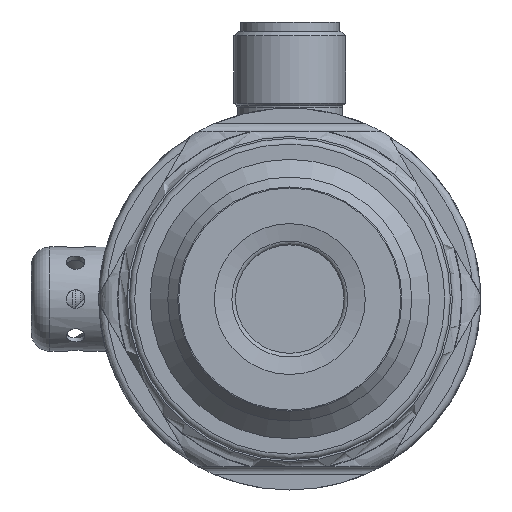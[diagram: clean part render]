
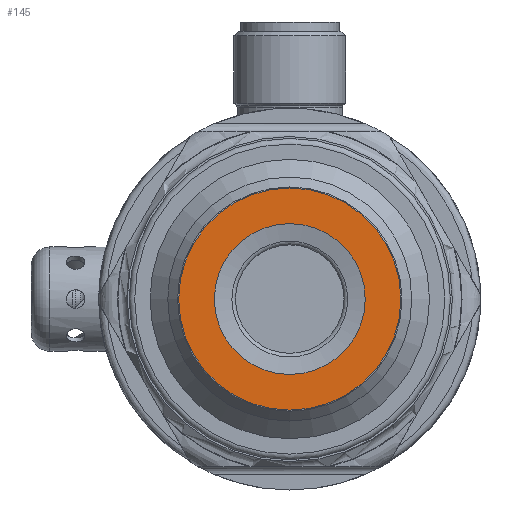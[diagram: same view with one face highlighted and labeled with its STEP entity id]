
A CAD part, front view. The second image highlights one B-rep face of the part: STEP entity #145.
In plain terms, the highlighted planar face has unit normal (0, -1, 0).
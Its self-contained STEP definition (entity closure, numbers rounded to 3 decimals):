
#145 = ADVANCED_FACE( '', ( #427, #428 ), #429, .F. );
#427 = FACE_BOUND( '', #888, .T. );
#428 = FACE_OUTER_BOUND( '', #889, .T. );
#429 = PLANE( '', #890 );
#888 = EDGE_LOOP( '', ( #1740 ) );
#889 = EDGE_LOOP( '', ( #1741 ) );
#890 = AXIS2_PLACEMENT_3D( '', #1742, #1743, #1744 );
#1740 = ORIENTED_EDGE( '', *, *, #2757, .F. );
#1741 = ORIENTED_EDGE( '', *, *, #2758, .T. );
#1742 = CARTESIAN_POINT( '', ( 11.927, 0., 0. ) );
#1743 = DIRECTION( '', ( 0., 1., 0. ) );
#1744 = DIRECTION( '', ( 0., 0., 1. ) );
#2757 = EDGE_CURVE( '', #3337, #3337, #3338, .T. );
#2758 = EDGE_CURVE( '', #3339, #3339, #3340, .T. );
#3337 = VERTEX_POINT( '', #4914 );
#3338 = CIRCLE( '', #4915, 8.1 );
#3339 = VERTEX_POINT( '', #4916 );
#3340 = CIRCLE( '', #4917, 11.927 );
#4914 = CARTESIAN_POINT( '', ( 0., 0., -8.1 ) );
#4915 = AXIS2_PLACEMENT_3D( '', #6462, #6463, #6464 );
#4916 = CARTESIAN_POINT( '', ( 0., 0., -11.927 ) );
#4917 = AXIS2_PLACEMENT_3D( '', #6465, #6466, #6467 );
#6462 = CARTESIAN_POINT( '', ( 0., 0., 0. ) );
#6463 = DIRECTION( '', ( 0., -1., 0. ) );
#6464 = DIRECTION( '', ( 0., 0., -1. ) );
#6465 = CARTESIAN_POINT( '', ( 0., 0., 0. ) );
#6466 = DIRECTION( '', ( 0., -1., 0. ) );
#6467 = DIRECTION( '', ( 0., 0., -1. ) );
